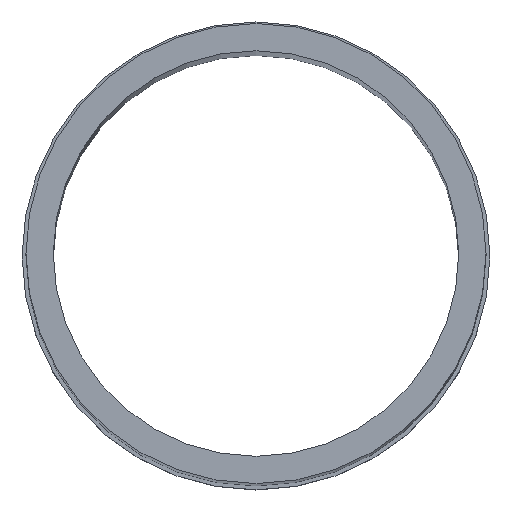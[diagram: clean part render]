
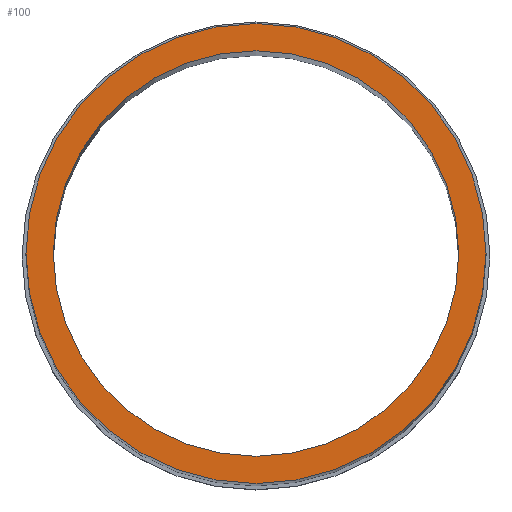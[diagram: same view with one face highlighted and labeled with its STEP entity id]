
A CAD part, top view. The second image highlights one B-rep face of the part: STEP entity #100.
In plain terms, the highlighted planar face has unit normal (0, 0, 1).
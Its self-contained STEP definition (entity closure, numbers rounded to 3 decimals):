
#100=ADVANCED_FACE('NONE',(#124,#125),#113,.T.);
#113=PLANE('',#341);
#124=FACE_BOUND('',#141,.T.);
#125=FACE_BOUND('',#142,.T.);
#141=EDGE_LOOP('',(#190,#191));
#142=EDGE_LOOP('',(#192,#193));
#190=ORIENTED_EDGE('',*,*,#276,.F.);
#191=ORIENTED_EDGE('',*,*,#277,.F.);
#192=ORIENTED_EDGE('',*,*,#278,.T.);
#193=ORIENTED_EDGE('',*,*,#279,.T.);
#242=VERTEX_POINT('',#506);
#243=VERTEX_POINT('',#508);
#244=VERTEX_POINT('',#513);
#245=VERTEX_POINT('',#514);
#276=EDGE_CURVE('NONE',#243,#242,#302,.T.);
#277=EDGE_CURVE('NONE',#242,#243,#303,.T.);
#278=EDGE_CURVE('NONE',#244,#245,#304,.T.);
#279=EDGE_CURVE('NONE',#245,#244,#305,.T.);
#302=CIRCLE('',#336,13.);
#303=CIRCLE('',#338,13.);
#304=CIRCLE('',#339,14.75);
#305=CIRCLE('',#340,14.75);
#336=AXIS2_PLACEMENT_3D('',#509,#419,#420);
#338=AXIS2_PLACEMENT_3D('',#511,#423,#424);
#339=AXIS2_PLACEMENT_3D('',#512,#425,#426);
#340=AXIS2_PLACEMENT_3D('',#515,#427,#428);
#341=AXIS2_PLACEMENT_3D('',#516,#429,#430);
#419=DIRECTION('',(0.,0.,1.));
#420=DIRECTION('',(1.,0.,0.));
#423=DIRECTION('',(0.,0.,1.));
#424=DIRECTION('',(1.,0.,0.));
#425=DIRECTION('',(0.,0.,1.));
#426=DIRECTION('',(1.,0.,0.));
#427=DIRECTION('',(0.,0.,1.));
#428=DIRECTION('',(1.,0.,0.));
#429=DIRECTION('',(0.,0.,1.));
#430=DIRECTION('',(1.,0.,0.));
#506=CARTESIAN_POINT('',(-13.,0.,-26.002));
#508=CARTESIAN_POINT('',(13.,0.,-26.002));
#509=CARTESIAN_POINT('',(0.,0.,-26.002));
#511=CARTESIAN_POINT('',(0.,0.,-26.002));
#512=CARTESIAN_POINT('',(0.,0.,-26.002));
#513=CARTESIAN_POINT('',(14.75,0.,-26.002));
#514=CARTESIAN_POINT('',(-14.75,0.,-26.002));
#515=CARTESIAN_POINT('',(0.,0.,-26.002));
#516=CARTESIAN_POINT('',(0.,14.875,-26.002));
